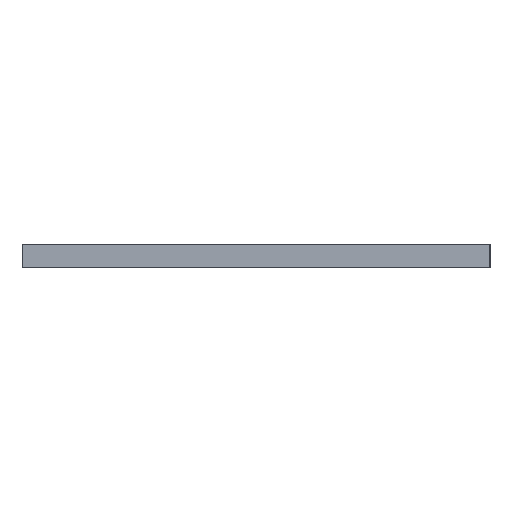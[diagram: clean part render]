
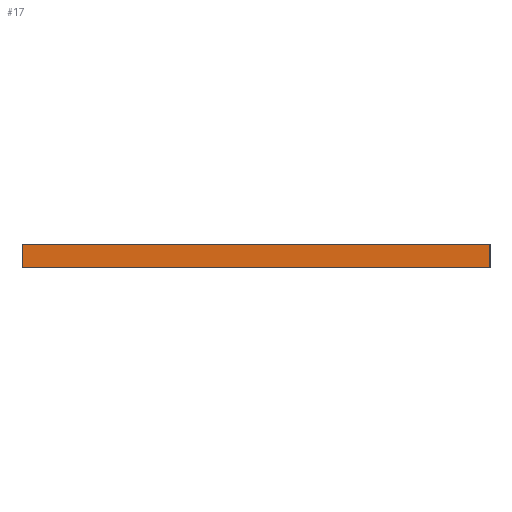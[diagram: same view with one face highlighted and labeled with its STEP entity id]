
A CAD part, left-side view. The second image highlights one B-rep face of the part: STEP entity #17.
In plain terms, the highlighted planar face has unit normal (-1, 0, 0).
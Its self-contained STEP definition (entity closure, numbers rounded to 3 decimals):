
#17 = ADVANCED_FACE('',(#18),#32,.F.);
#18 = FACE_BOUND('',#19,.F.);
#19 = EDGE_LOOP('',(#20,#55,#83,#111));
#20 = ORIENTED_EDGE('',*,*,#21,.F.);
#21 = EDGE_CURVE('',#22,#24,#26,.T.);
#22 = VERTEX_POINT('',#23);
#23 = CARTESIAN_POINT('',(-52.,-40.,0.));
#24 = VERTEX_POINT('',#25);
#25 = CARTESIAN_POINT('',(-52.,-40.,4.));
#26 = SURFACE_CURVE('',#27,(#31,#43),.PCURVE_S1.);
#27 = LINE('',#28,#29);
#28 = CARTESIAN_POINT('',(-52.,-40.,0.));
#29 = VECTOR('',#30,1.);
#30 = DIRECTION('',(0.,0.,1.));
#31 = PCURVE('',#32,#37);
#32 = PLANE('',#33);
#33 = AXIS2_PLACEMENT_3D('',#34,#35,#36);
#34 = CARTESIAN_POINT('',(-52.,-40.,0.));
#35 = DIRECTION('',(1.,0.,0.));
#36 = DIRECTION('',(0.,0.,1.));
#37 = DEFINITIONAL_REPRESENTATION('',(#38),#42);
#38 = LINE('',#39,#40);
#39 = CARTESIAN_POINT('',(0.,0.));
#40 = VECTOR('',#41,1.);
#41 = DIRECTION('',(1.,0.));
#42 = ( GEOMETRIC_REPRESENTATION_CONTEXT(2) 
PARAMETRIC_REPRESENTATION_CONTEXT() REPRESENTATION_CONTEXT('2D SPACE',''
  ) );
#43 = PCURVE('',#44,#49);
#44 = PLANE('',#45);
#45 = AXIS2_PLACEMENT_3D('',#46,#47,#48);
#46 = CARTESIAN_POINT('',(-52.,-40.,0.));
#47 = DIRECTION('',(0.,1.,0.));
#48 = DIRECTION('',(0.,0.,1.));
#49 = DEFINITIONAL_REPRESENTATION('',(#50),#54);
#50 = LINE('',#51,#52);
#51 = CARTESIAN_POINT('',(0.,0.));
#52 = VECTOR('',#53,1.);
#53 = DIRECTION('',(1.,0.));
#54 = ( GEOMETRIC_REPRESENTATION_CONTEXT(2) 
PARAMETRIC_REPRESENTATION_CONTEXT() REPRESENTATION_CONTEXT('2D SPACE',''
  ) );
#55 = ORIENTED_EDGE('',*,*,#56,.T.);
#56 = EDGE_CURVE('',#22,#57,#59,.T.);
#57 = VERTEX_POINT('',#58);
#58 = CARTESIAN_POINT('',(-52.,40.,0.));
#59 = SURFACE_CURVE('',#60,(#64,#71),.PCURVE_S1.);
#60 = LINE('',#61,#62);
#61 = CARTESIAN_POINT('',(-52.,-40.,0.));
#62 = VECTOR('',#63,1.);
#63 = DIRECTION('',(0.,1.,0.));
#64 = PCURVE('',#32,#65);
#65 = DEFINITIONAL_REPRESENTATION('',(#66),#70);
#66 = LINE('',#67,#68);
#67 = CARTESIAN_POINT('',(0.,0.));
#68 = VECTOR('',#69,1.);
#69 = DIRECTION('',(0.,-1.));
#70 = ( GEOMETRIC_REPRESENTATION_CONTEXT(2) 
PARAMETRIC_REPRESENTATION_CONTEXT() REPRESENTATION_CONTEXT('2D SPACE',''
  ) );
#71 = PCURVE('',#72,#77);
#72 = PLANE('',#73);
#73 = AXIS2_PLACEMENT_3D('',#74,#75,#76);
#74 = CARTESIAN_POINT('',(-52.,-40.,0.));
#75 = DIRECTION('',(0.,0.,1.));
#76 = DIRECTION('',(1.,0.,0.));
#77 = DEFINITIONAL_REPRESENTATION('',(#78),#82);
#78 = LINE('',#79,#80);
#79 = CARTESIAN_POINT('',(0.,0.));
#80 = VECTOR('',#81,1.);
#81 = DIRECTION('',(0.,1.));
#82 = ( GEOMETRIC_REPRESENTATION_CONTEXT(2) 
PARAMETRIC_REPRESENTATION_CONTEXT() REPRESENTATION_CONTEXT('2D SPACE',''
  ) );
#83 = ORIENTED_EDGE('',*,*,#84,.T.);
#84 = EDGE_CURVE('',#57,#85,#87,.T.);
#85 = VERTEX_POINT('',#86);
#86 = CARTESIAN_POINT('',(-52.,40.,4.));
#87 = SURFACE_CURVE('',#88,(#92,#99),.PCURVE_S1.);
#88 = LINE('',#89,#90);
#89 = CARTESIAN_POINT('',(-52.,40.,0.));
#90 = VECTOR('',#91,1.);
#91 = DIRECTION('',(0.,0.,1.));
#92 = PCURVE('',#32,#93);
#93 = DEFINITIONAL_REPRESENTATION('',(#94),#98);
#94 = LINE('',#95,#96);
#95 = CARTESIAN_POINT('',(0.,-80.));
#96 = VECTOR('',#97,1.);
#97 = DIRECTION('',(1.,0.));
#98 = ( GEOMETRIC_REPRESENTATION_CONTEXT(2) 
PARAMETRIC_REPRESENTATION_CONTEXT() REPRESENTATION_CONTEXT('2D SPACE',''
  ) );
#99 = PCURVE('',#100,#105);
#100 = PLANE('',#101);
#101 = AXIS2_PLACEMENT_3D('',#102,#103,#104);
#102 = CARTESIAN_POINT('',(-52.,40.,0.));
#103 = DIRECTION('',(0.,1.,0.));
#104 = DIRECTION('',(0.,0.,1.));
#105 = DEFINITIONAL_REPRESENTATION('',(#106),#110);
#106 = LINE('',#107,#108);
#107 = CARTESIAN_POINT('',(0.,0.));
#108 = VECTOR('',#109,1.);
#109 = DIRECTION('',(1.,0.));
#110 = ( GEOMETRIC_REPRESENTATION_CONTEXT(2) 
PARAMETRIC_REPRESENTATION_CONTEXT() REPRESENTATION_CONTEXT('2D SPACE',''
  ) );
#111 = ORIENTED_EDGE('',*,*,#112,.F.);
#112 = EDGE_CURVE('',#24,#85,#113,.T.);
#113 = SURFACE_CURVE('',#114,(#118,#125),.PCURVE_S1.);
#114 = LINE('',#115,#116);
#115 = CARTESIAN_POINT('',(-52.,-40.,4.));
#116 = VECTOR('',#117,1.);
#117 = DIRECTION('',(0.,1.,0.));
#118 = PCURVE('',#32,#119);
#119 = DEFINITIONAL_REPRESENTATION('',(#120),#124);
#120 = LINE('',#121,#122);
#121 = CARTESIAN_POINT('',(4.,0.));
#122 = VECTOR('',#123,1.);
#123 = DIRECTION('',(0.,-1.));
#124 = ( GEOMETRIC_REPRESENTATION_CONTEXT(2) 
PARAMETRIC_REPRESENTATION_CONTEXT() REPRESENTATION_CONTEXT('2D SPACE',''
  ) );
#125 = PCURVE('',#126,#131);
#126 = PLANE('',#127);
#127 = AXIS2_PLACEMENT_3D('',#128,#129,#130);
#128 = CARTESIAN_POINT('',(-52.,-40.,4.));
#129 = DIRECTION('',(0.,0.,1.));
#130 = DIRECTION('',(1.,0.,0.));
#131 = DEFINITIONAL_REPRESENTATION('',(#132),#136);
#132 = LINE('',#133,#134);
#133 = CARTESIAN_POINT('',(0.,0.));
#134 = VECTOR('',#135,1.);
#135 = DIRECTION('',(0.,1.));
#136 = ( GEOMETRIC_REPRESENTATION_CONTEXT(2) 
PARAMETRIC_REPRESENTATION_CONTEXT() REPRESENTATION_CONTEXT('2D SPACE',''
  ) );
